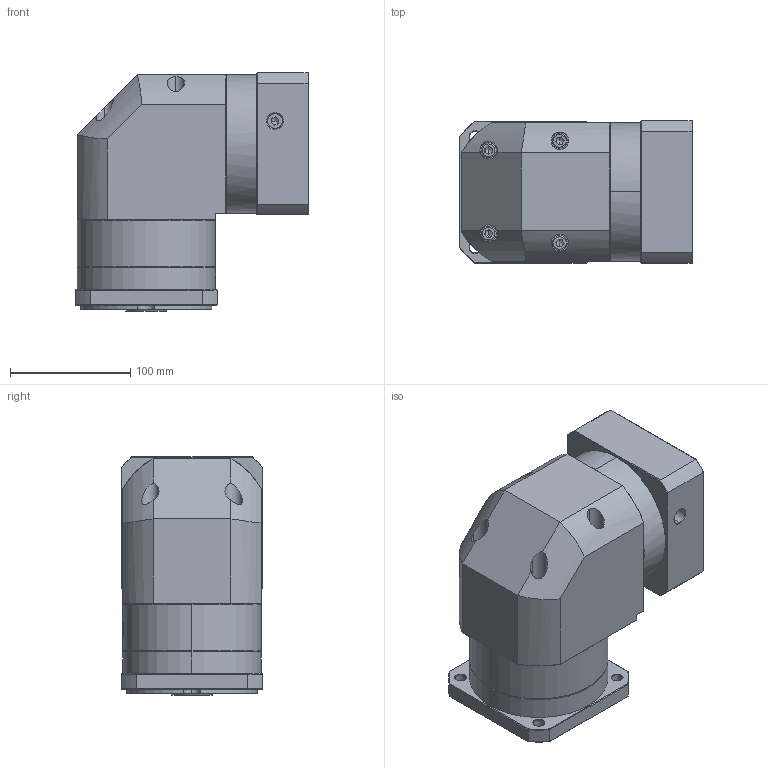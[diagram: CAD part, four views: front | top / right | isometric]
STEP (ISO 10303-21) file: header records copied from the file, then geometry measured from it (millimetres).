
FILE_DESCRIPTION (( 'STEP AP214' ), '1' );
FILE_NAME ('ZFR120A-K25-L1-P2-22-110-130-M8.step', '2023-08-27T08:13:14', ( '' ), ( '' ), 'SwSTEP 2.0', 'SolidWorks 2016', '' );
FILE_SCHEMA (( 'AUTOMOTIVE_DESIGN' ));
Length unit declared in the file: millimetre
Products named in the file (1): ZFR120A-K25-L1-P2-22-110-130-M8
Bounding box: 193.9 x 118 x 198 mm (x, y, z)
Volume: 2825008.9 mm3; surface area: 242736.8 mm2
Topology: 6 solids, 6 shells, 2210 faces, 5820 edges, 3715 vertices
Faces by surface type: plane 1054, bspline 416, cylinder 401, cone 331, torus 8
Entity records: 118653 total; most frequent: CARTESIAN_POINT 45081, ORIENTED_EDGE 11584, DIRECTION 8412, EDGE_CURVE 5792, VERTEX_POINT 3715, VECTOR 3106, LINE 3106, AXIS2_PLACEMENT_3D 2653
